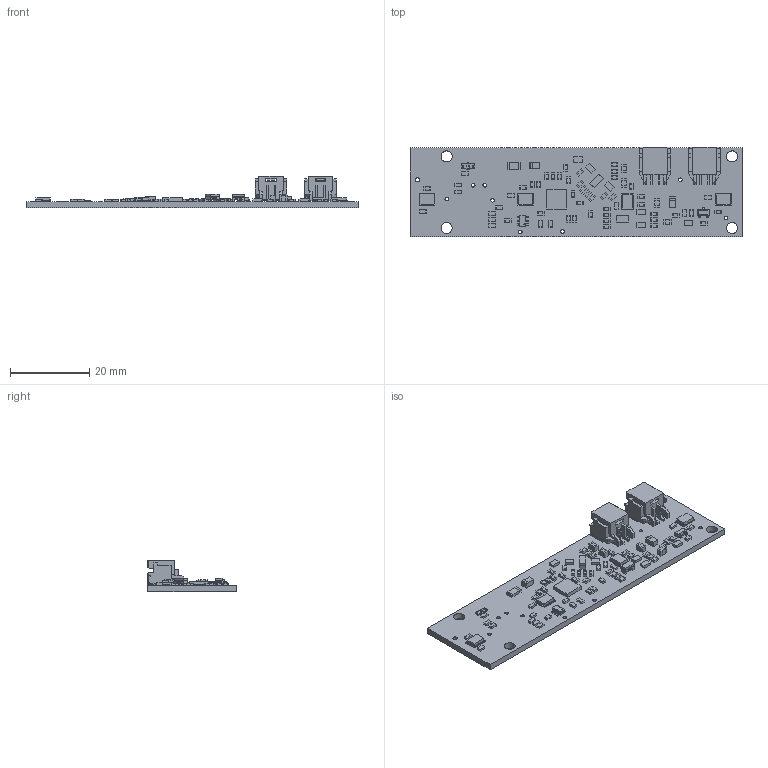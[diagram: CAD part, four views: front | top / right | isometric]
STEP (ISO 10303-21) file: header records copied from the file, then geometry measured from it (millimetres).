
FILE_DESCRIPTION(('Open CASCADE Model'),'2;1');
FILE_NAME('Open CASCADE Shape Model','2021-06-14T13:10:09',('Author'),( 'Open CASCADE'),'Open CASCADE STEP processor 6.8','Open CASCADE 6.8' ,'Unknown');
FILE_SCHEMA(('AUTOMOTIVE_DESIGN { 1 0 10303 214 1 1 1 1 }'));
Length unit declared in the file: millimetre
Products named in the file (163): PCB; Board; Open CASCADE STEP translator 6.8 1.1.1; J2; 5023520200; Open CASCADE STEP translator 6.8 1.2.1.1; Open CASCADE STEP translator 6.8 1.2.1.2; D2; Download_STP_WL-SMRW-1205_(rev1); contact-pins; glass_housing; Polarity_Mark; isolation; U2; DBV0006AakaMF06A; BODY_MF06A; LEAD_MF06A; R33; 1800814856; Extruded; 1800814296; 1800815696; R37; R36; R35; R32; C31; 1800815376; 1800814176; J1; XMC3; 1800815136; 1800814536; XMC2; 1800814616; 1800814816; XMC1; XMC4; R38; R9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
Assembly tree (342 placements, depth 5):
  PCB
    Board
      Open CASCADE STEP translator 6.8 1.1.1
    J2
      5023520200
        Open CASCADE STEP translator 6.8 1.2.1.1
        Open CASCADE STEP translator 6.8 1.2.1.2
    D2
      Download_STP_WL-SMRW-1205_(rev1)
        contact-pins
        contact-pins
        PCB
        glass_housing
        Polarity_Mark
        isolation  x2
    U2
      DBV0006AakaMF06A
        BODY_MF06A
        LEAD_MF06A  x6
    R33
      1800814856
        Extruded
      1800814296
        Extruded
      1800815696
        Extruded
    R37
      1800814856
        Extruded
      1800814296
        Extruded
      1800815696
        Extruded
    R36
      1800814856
        Extruded
      1800814296
        Extruded
      1800815696
        Extruded
    R35
      1800814856
        Extruded
      1800814296
        Extruded
      1800815696
        Extruded
    R32
      1800815696
        Extruded
      1800814296
        Extruded
      1800814856
        Extruded
    C31
      1800815376  x2
        Extruded
      1800814176
        Extruded
    J1
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Bounding box: 84 x 22.6 x 8.08 mm (x, y, z)
Volume: 3574.7 mm3; surface area: 6344.3 mm2
Topology: 233 solids, 233 shells, 2251 faces, 4986 edges, 3226 vertices
Faces by surface type: plane 1913, cylinder 217, torus 68, bspline 32, sphere 20, cone 1
Full cylindrical faces by diameter (mm): 0.05 x92, 0.254 x1, 0.8 x4, 0.9 x8, 1.1 x1, 1.75 x1, 2.8 x4
Entity records: 29867 total; most frequent: CARTESIAN_POINT 6869, DIRECTION 4129, ORIENTED_EDGE 3630, EDGE_CURVE 1815, LINE 1447, VECTOR 1447, AXIS2_PLACEMENT_3D 1341, VERTEX_POINT 1129
